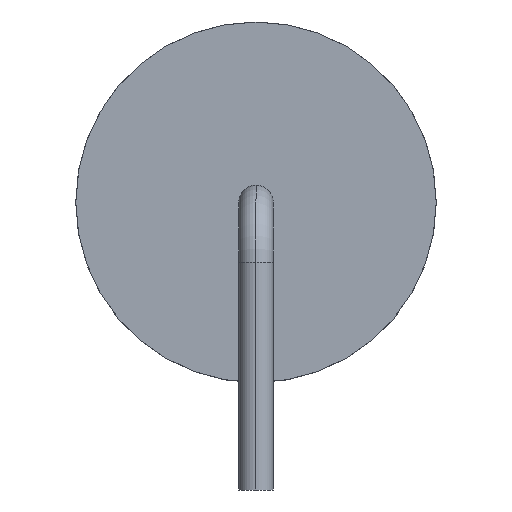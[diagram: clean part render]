
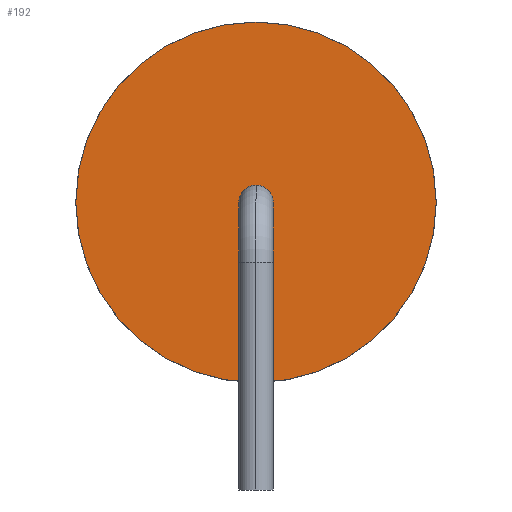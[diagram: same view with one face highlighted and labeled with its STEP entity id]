
A CAD part, left-side view. The second image highlights one B-rep face of the part: STEP entity #192.
In plain terms, the highlighted planar face has unit normal (-1, 0, 0).
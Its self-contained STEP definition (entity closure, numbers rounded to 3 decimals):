
#192=ADVANCED_FACE($,(#198),#194,.T.);
#194=PLANE($,#219);
#198=FACE_OUTER_BOUND($,#202,.T.);
#202=EDGE_LOOP($,(#212));
#203=CIRCLE($,#216,4.255);
#205=VERTEX_POINT('',#234);
#207=EDGE_CURVE($,#205,#205,#203,.T.);
#212=ORIENTED_EDGE($,*,*,#207,.T.);
#216=AXIS2_PLACEMENT_3D($,#235,#224,#225);
#219=AXIS2_PLACEMENT_3D($,#239,#230,#231);
#224=DIRECTION('',(-1.,0.,0.));
#225=DIRECTION('',(0.,0.,1.));
#230=DIRECTION('',(-1.,0.,0.));
#231=DIRECTION('',(0.,1.,0.));
#234=CARTESIAN_POINT('',(3.213,0.0,0.0));
#235=CARTESIAN_POINT('',(3.213,0.0,4.254));
#239=CARTESIAN_POINT('',(3.213,0.0,4.254));
